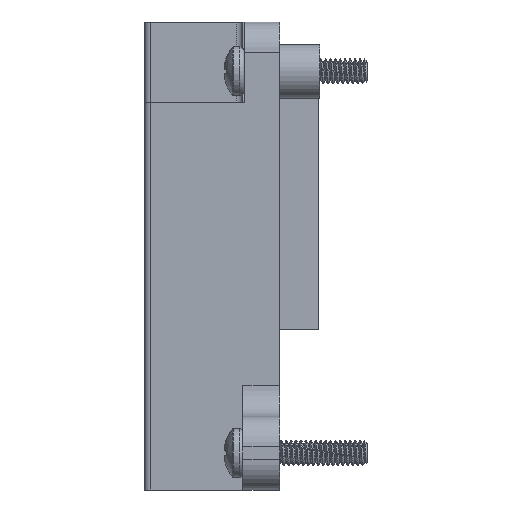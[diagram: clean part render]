
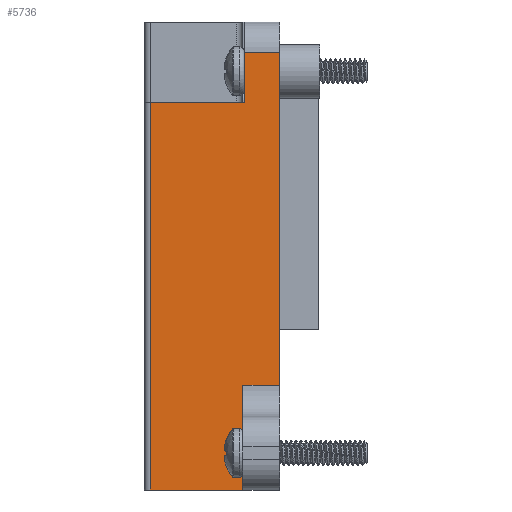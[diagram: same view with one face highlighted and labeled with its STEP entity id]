
A CAD part, left-side view. The second image highlights one B-rep face of the part: STEP entity #5736.
In plain terms, the highlighted planar face has unit normal (-1, 0, 0).
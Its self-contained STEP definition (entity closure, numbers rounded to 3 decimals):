
#100 = DIRECTION ( 'NONE',  ( 0., 0., 1. ) ) ;
#348 = LINE ( 'NONE', #6130, #5206 ) ;
#356 = CARTESIAN_POINT ( 'NONE',  ( -34.8, 2.85, 16.5 ) ) ;
#552 = AXIS2_PLACEMENT_3D ( 'NONE', #8331, #9193, #12070 ) ;
#961 = CARTESIAN_POINT ( 'NONE',  ( -34.8, 2.85, 12.5 ) ) ;
#1022 = VERTEX_POINT ( 'NONE', #1730 ) ;
#1198 = ORIENTED_EDGE ( 'NONE', *, *, #6612, .F. ) ;
#1207 = ORIENTED_EDGE ( 'NONE', *, *, #11723, .T. ) ;
#1645 = VECTOR ( 'NONE', #100, 1000. ) ;
#1730 = CARTESIAN_POINT ( 'NONE',  ( -34.8, 0., 15. ) ) ;
#1942 = VERTEX_POINT ( 'NONE', #10853 ) ;
#2142 = EDGE_CURVE ( 'NONE', #7285, #1942, #9257, .T. ) ;
#2307 = DIRECTION ( 'NONE',  ( 0., 1., 0. ) ) ;
#2385 = VERTEX_POINT ( 'NONE', #2965 ) ;
#2417 = LINE ( 'NONE', #7304, #5915 ) ;
#2720 = CARTESIAN_POINT ( 'NONE',  ( -34.8, 11., 12.5 ) ) ;
#2765 = VERTEX_POINT ( 'NONE', #8694 ) ;
#2965 = CARTESIAN_POINT ( 'NONE',  ( -34.8, 0., 16.5 ) ) ;
#3204 = CARTESIAN_POINT ( 'NONE',  ( -34.8, 3., -27.062 ) ) ;
#3220 = ORIENTED_EDGE ( 'NONE', *, *, #5318, .T. ) ;
#3279 = ORIENTED_EDGE ( 'NONE', *, *, #9114, .T. ) ;
#3613 = VECTOR ( 'NONE', #7480, 1000. ) ;
#3664 = DIRECTION ( 'NONE',  ( 0., 0., 1. ) ) ;
#3869 = VERTEX_POINT ( 'NONE', #7214 ) ;
#4647 = CARTESIAN_POINT ( 'NONE',  ( -34.8, 3., -10.5 ) ) ;
#5206 = VECTOR ( 'NONE', #2307, 1000. ) ;
#5318 = EDGE_CURVE ( 'NONE', #7431, #2765, #10429, .T. ) ;
#5450 = DIRECTION ( 'NONE',  ( 0., 0., -1. ) ) ;
#5631 = LINE ( 'NONE', #9575, #10446 ) ;
#5736 = ADVANCED_FACE ( 'NONE', ( #9992 ), #6427, .F. ) ;
#5915 = VECTOR ( 'NONE', #5450, 1000. ) ;
#6130 = CARTESIAN_POINT ( 'NONE',  ( -34.8, 3., 16.5 ) ) ;
#6300 = DIRECTION ( 'NONE',  ( 0., -1., 0. ) ) ;
#6402 = LINE ( 'NONE', #11984, #7383 ) ;
#6427 = PLANE ( 'NONE',  #552 ) ;
#6444 = VECTOR ( 'NONE', #11232, 1000. ) ;
#6461 = CARTESIAN_POINT ( 'NONE',  ( -34.8, 10.5, 12.5 ) ) ;
#6612 = EDGE_CURVE ( 'NONE', #7431, #7911, #7294, .T. ) ;
#6649 = CARTESIAN_POINT ( 'NONE',  ( -34.8, 3., -10.5 ) ) ;
#6784 = ORIENTED_EDGE ( 'NONE', *, *, #2142, .T. ) ;
#7214 = CARTESIAN_POINT ( 'NONE',  ( -34.8, 3., -19. ) ) ;
#7285 = VERTEX_POINT ( 'NONE', #6649 ) ;
#7294 = LINE ( 'NONE', #2720, #10286 ) ;
#7304 = CARTESIAN_POINT ( 'NONE',  ( -34.8, 2.85, 19. ) ) ;
#7383 = VECTOR ( 'NONE', #7508, 1000. ) ;
#7431 = VERTEX_POINT ( 'NONE', #6461 ) ;
#7480 = DIRECTION ( 'NONE',  ( 0., -1., 0. ) ) ;
#7508 = DIRECTION ( 'NONE',  ( 0., 0., 1. ) ) ;
#7633 = ORIENTED_EDGE ( 'NONE', *, *, #7916, .T. ) ;
#7911 = VERTEX_POINT ( 'NONE', #961 ) ;
#7916 = EDGE_CURVE ( 'NONE', #3869, #7285, #10598, .T. ) ;
#8331 = CARTESIAN_POINT ( 'NONE',  ( -34.8, 3., -19. ) ) ;
#8694 = CARTESIAN_POINT ( 'NONE',  ( -34.8, 10.5, -19. ) ) ;
#8784 = EDGE_CURVE ( 'NONE', #1942, #1022, #6402, .T. ) ;
#9114 = EDGE_CURVE ( 'NONE', #2385, #10981, #348, .T. ) ;
#9193 = DIRECTION ( 'NONE',  ( 1., 0., 0. ) ) ;
#9257 = LINE ( 'NONE', #4647, #3613 ) ;
#9293 = ORIENTED_EDGE ( 'NONE', *, *, #9591, .F. ) ;
#9427 = ORIENTED_EDGE ( 'NONE', *, *, #8784, .T. ) ;
#9575 = CARTESIAN_POINT ( 'NONE',  ( -34.8, 0., -19. ) ) ;
#9591 = EDGE_CURVE ( 'NONE', #3869, #2765, #10613, .T. ) ;
#9691 = DIRECTION ( 'NONE',  ( 0., 1., 0. ) ) ;
#9905 = ORIENTED_EDGE ( 'NONE', *, *, #10902, .T. ) ;
#9992 = FACE_OUTER_BOUND ( 'NONE', #12045, .T. ) ;
#10286 = VECTOR ( 'NONE', #6300, 1000. ) ;
#10310 = CARTESIAN_POINT ( 'NONE',  ( -34.8, 10.5, -19. ) ) ;
#10429 = LINE ( 'NONE', #10310, #6444 ) ;
#10446 = VECTOR ( 'NONE', #3664, 1000. ) ;
#10598 = LINE ( 'NONE', #3204, #1645 ) ;
#10613 = LINE ( 'NONE', #11535, #11836 ) ;
#10853 = CARTESIAN_POINT ( 'NONE',  ( -34.8, 0., -10.5 ) ) ;
#10902 = EDGE_CURVE ( 'NONE', #10981, #7911, #2417, .T. ) ;
#10981 = VERTEX_POINT ( 'NONE', #356 ) ;
#11232 = DIRECTION ( 'NONE',  ( 0., 0., -1. ) ) ;
#11535 = CARTESIAN_POINT ( 'NONE',  ( -34.8, 3., -19. ) ) ;
#11723 = EDGE_CURVE ( 'NONE', #1022, #2385, #5631, .T. ) ;
#11836 = VECTOR ( 'NONE', #9691, 1000. ) ;
#11984 = CARTESIAN_POINT ( 'NONE',  ( -34.8, 0., -19. ) ) ;
#12045 = EDGE_LOOP ( 'NONE', ( #7633, #6784, #9427, #1207, #3279, #9905, #1198, #3220, #9293 ) ) ;
#12070 = DIRECTION ( 'NONE',  ( 0., 0., -1. ) ) ;
